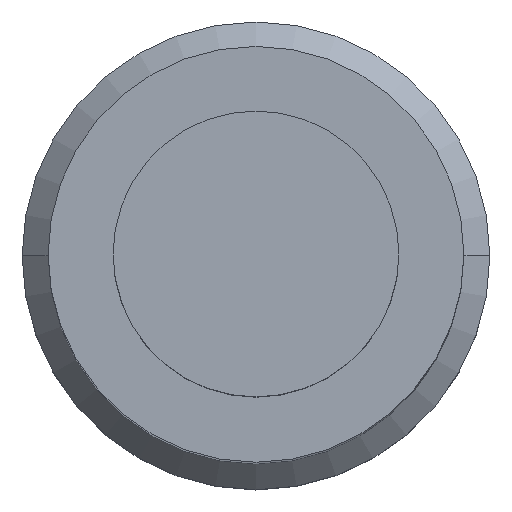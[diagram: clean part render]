
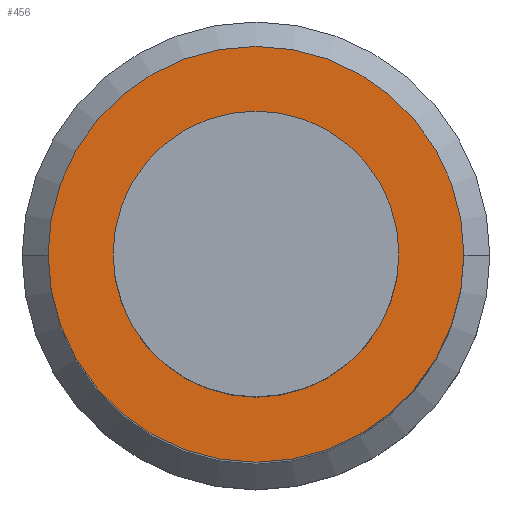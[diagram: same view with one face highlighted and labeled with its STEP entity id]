
A CAD part, top view. The second image highlights one B-rep face of the part: STEP entity #456.
In plain terms, the highlighted planar face has unit normal (0, 0, 1).
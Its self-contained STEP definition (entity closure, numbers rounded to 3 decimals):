
#1 = CARTESIAN_POINT ( 'NONE',  ( 8.25, 0., 53. ) ) ;
#18 = CARTESIAN_POINT ( 'NONE',  ( 0., 0., 53. ) ) ;
#44 = CARTESIAN_POINT ( 'NONE',  ( 0., 0., 53. ) ) ;
#53 = DIRECTION ( 'NONE',  ( 1., 0., 0. ) ) ;
#55 = AXIS2_PLACEMENT_3D ( 'NONE', #311, #374, #660 ) ;
#56 = DIRECTION ( 'NONE',  ( 0., 0., 1. ) ) ;
#57 = CARTESIAN_POINT ( 'NONE',  ( -8.25, 0., 53. ) ) ;
#63 = DIRECTION ( 'NONE',  ( 0., 0., 1. ) ) ;
#67 = AXIS2_PLACEMENT_3D ( 'NONE', #44, #102, #764 ) ;
#102 = DIRECTION ( 'NONE',  ( 0., 0., 1. ) ) ;
#114 = EDGE_CURVE ( 'NONE', #164, #628, #241, .T. ) ;
#164 = VERTEX_POINT ( 'NONE', #57 ) ;
#167 = FACE_BOUND ( 'NONE', #210, .T. ) ;
#188 = CIRCLE ( 'NONE', #67, 12. ) ;
#203 = AXIS2_PLACEMENT_3D ( 'NONE', #424, #56, #53 ) ;
#210 = EDGE_LOOP ( 'NONE', ( #517, #629 ) ) ;
#227 = CARTESIAN_POINT ( 'NONE',  ( 0., 0., 53. ) ) ;
#241 = CIRCLE ( 'NONE', #55, 8.25 ) ;
#256 = ORIENTED_EDGE ( 'NONE', *, *, #635, .T. ) ;
#264 = FACE_OUTER_BOUND ( 'NONE', #276, .T. ) ;
#276 = EDGE_LOOP ( 'NONE', ( #256, #583 ) ) ;
#292 = PLANE ( 'NONE',  #657 ) ;
#311 = CARTESIAN_POINT ( 'NONE',  ( 0., 0., 53. ) ) ;
#370 = AXIS2_PLACEMENT_3D ( 'NONE', #18, #63, #440 ) ;
#374 = DIRECTION ( 'NONE',  ( 0., 0., 1. ) ) ;
#412 = CARTESIAN_POINT ( 'NONE',  ( -12., 0., 53. ) ) ;
#424 = CARTESIAN_POINT ( 'NONE',  ( 0., 0., 53. ) ) ;
#440 = DIRECTION ( 'NONE',  ( 1., 0., 0. ) ) ;
#456 = ADVANCED_FACE ( 'NONE', ( #167, #264 ), #292, .T. ) ;
#517 = ORIENTED_EDGE ( 'NONE', *, *, #773, .F. ) ;
#532 = VERTEX_POINT ( 'NONE', #412 ) ;
#579 = EDGE_CURVE ( 'NONE', #532, #763, #188, .T. ) ;
#581 = CIRCLE ( 'NONE', #370, 8.25 ) ;
#583 = ORIENTED_EDGE ( 'NONE', *, *, #579, .T. ) ;
#589 = DIRECTION ( 'NONE',  ( 1., 0., 0. ) ) ;
#628 = VERTEX_POINT ( 'NONE', #1 ) ;
#629 = ORIENTED_EDGE ( 'NONE', *, *, #114, .F. ) ;
#635 = EDGE_CURVE ( 'NONE', #763, #532, #734, .T. ) ;
#657 = AXIS2_PLACEMENT_3D ( 'NONE', #227, #705, #589 ) ;
#660 = DIRECTION ( 'NONE',  ( 1., 0., 0. ) ) ;
#705 = DIRECTION ( 'NONE',  ( 0., 0., 1. ) ) ;
#729 = CARTESIAN_POINT ( 'NONE',  ( 12., 0., 53. ) ) ;
#734 = CIRCLE ( 'NONE', #203, 12. ) ;
#763 = VERTEX_POINT ( 'NONE', #729 ) ;
#764 = DIRECTION ( 'NONE',  ( 1., 0., 0. ) ) ;
#773 = EDGE_CURVE ( 'NONE', #628, #164, #581, .T. ) ;
